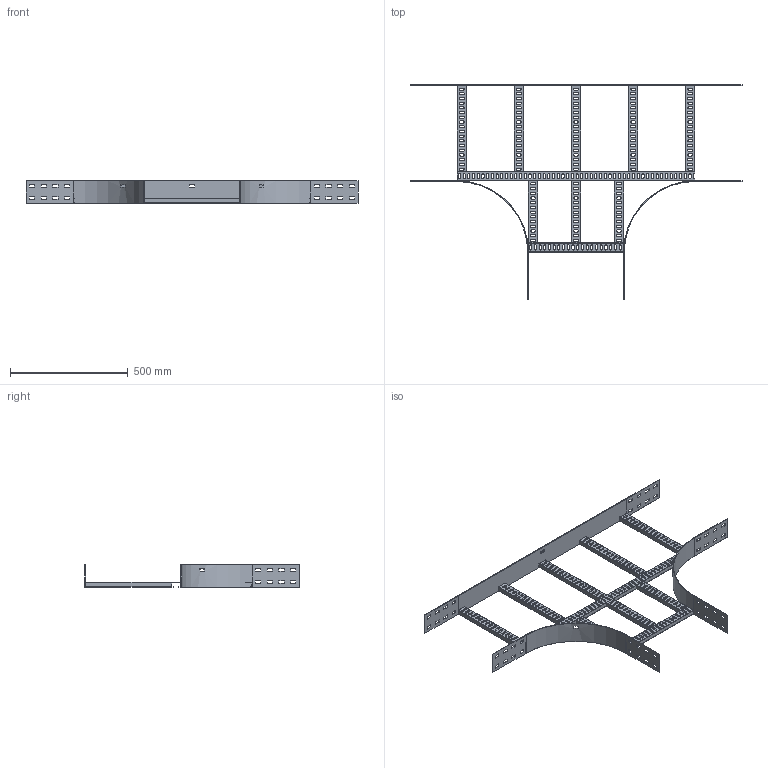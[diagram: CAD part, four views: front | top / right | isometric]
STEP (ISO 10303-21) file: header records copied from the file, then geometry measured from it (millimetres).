
FILE_DESCRIPTION(/* description */ ('','CAx-IF Rec.Pracs.---Representation and Presentation of Product Manufacturing Information (PMI)---4.0---2014-10-13'),/* implementation_level */ '2;1');
FILE_NAME(/* name */ 'Eurostrut_EET100-400-300_T-Piece for Cable Ladder ECL.step',/* time_stamp */ '2026-09-03T15:50:55+02:00',/* author */ (''),/* organization */ (''),/* preprocessor_version */ 'ST-DEVELOPER v20.1',/* originating_system */ 'Autodesk Revit 2027 27.2.0.39',/* authorisation */ '');
FILE_SCHEMA (('AP242_MANAGED_MODEL_BASED_3D_ENGINEERING_MIM_LF { 1 0 10303 442 2 1 4 }'));
Length unit declared in the file: millimetre
Products named in the file (9): TopLevelAssembly; Sweep; Sweep_1; Eurostrut_Cable Ladder_Rung_With slots; Eurostrut_Cable Ladder_Rung_With slots_1; Eurostrut_Cable Ladder_Rung Array Straight_Slotted; Eurostrut_Cable Ladder_Rung Array Straight_Slotted_1; Sweep_2; Eurostrut_Cable Ladder_Accessory End_54-94-142
Assembly tree (13 placements, depth 2):
  TopLevelAssembly
    Sweep
    Sweep_1
    Eurostrut_Cable Ladder_Rung_With slots
    Eurostrut_Cable Ladder_Rung_With slots_1
    Eurostrut_Cable Ladder_Rung Array Straight_Slotted
    Eurostrut_Cable Ladder_Rung Array Straight_Slotted_1
    Sweep_2
    Eurostrut_Cable Ladder_Accessory End_54-94-142  x6
Bounding box: 1411 x 911 x 94.04 mm (x, y, z)
Volume: 1347560.8 mm3; surface area: 1293087.4 mm2
Topology: 19 solids, 19 shells, 1238 faces, 3600 edges, 2400 vertices
Faces by surface type: plane 794, bspline 400, cylinder 44
Entity records: 47038 total; most frequent: CARTESIAN_POINT 18506, ORIENTED_EDGE 6120, DIRECTION 5296, EDGE_CURVE 3060, LINE 2164, VECTOR 2164, VERTEX_POINT 2040, AXIS2_PLACEMENT_3D 1566
